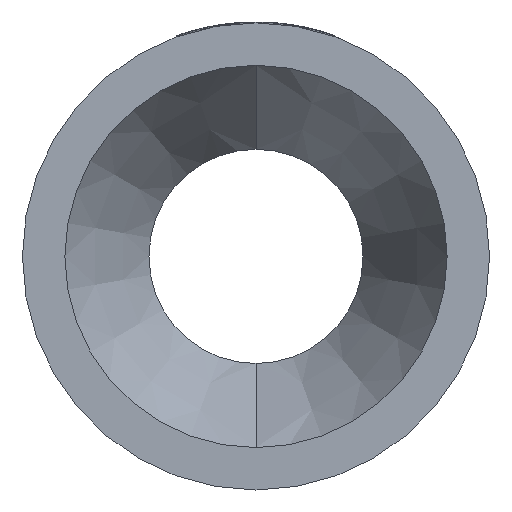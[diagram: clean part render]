
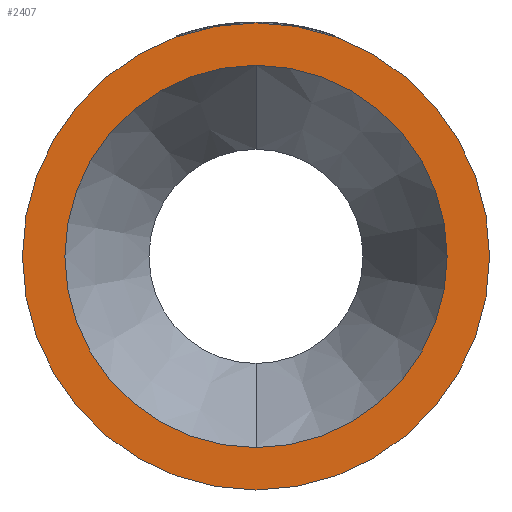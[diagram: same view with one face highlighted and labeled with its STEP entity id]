
A CAD part, left-side view. The second image highlights one B-rep face of the part: STEP entity #2407.
In plain terms, the highlighted planar face has unit normal (-1, 0, 0).
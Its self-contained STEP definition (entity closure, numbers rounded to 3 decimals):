
#219 = AXIS2_PLACEMENT_3D ( 'NONE', #3378, #3377, #3357 ) ;
#252 = AXIS2_PLACEMENT_3D ( 'NONE', #1071, #1068, #1043 ) ;
#323 = VERTEX_POINT ( 'NONE', #3274 ) ;
#616 = FACE_BOUND ( 'NONE', #1716, .T. ) ;
#684 = EDGE_CURVE ( 'NONE', #1900, #323, #3231, .T. ) ;
#720 = DIRECTION ( 'NONE',  ( 0., 0., 1. ) ) ;
#752 = DIRECTION ( 'NONE',  ( -1., 0., 0. ) ) ;
#758 = CARTESIAN_POINT ( 'NONE',  ( 0., 0., 0. ) ) ;
#809 = DIRECTION ( 'NONE',  ( 0., 0., 1. ) ) ;
#817 = DIRECTION ( 'NONE',  ( -1., 0., 0. ) ) ;
#823 = CARTESIAN_POINT ( 'NONE',  ( 0., 0., 0. ) ) ;
#827 = EDGE_CURVE ( 'NONE', #851, #1632, #3075, .T. ) ;
#851 = VERTEX_POINT ( 'NONE', #3320 ) ;
#1043 = DIRECTION ( 'NONE',  ( 0., 0., 1. ) ) ;
#1068 = DIRECTION ( 'NONE',  ( -1., 0., 0. ) ) ;
#1071 = CARTESIAN_POINT ( 'NONE',  ( 0., 0., 0. ) ) ;
#1191 = EDGE_CURVE ( 'NONE', #1632, #851, #1943, .T. ) ;
#1197 = EDGE_CURVE ( 'NONE', #323, #1900, #1884, .T. ) ;
#1533 = AXIS2_PLACEMENT_3D ( 'NONE', #3031, #2445, #3017 ) ;
#1632 = VERTEX_POINT ( 'NONE', #2231 ) ;
#1716 = EDGE_LOOP ( 'NONE', ( #2053, #2094 ) ) ;
#1838 = FACE_OUTER_BOUND ( 'NONE', #2774, .T. ) ;
#1884 = CIRCLE ( 'NONE', #3587, 125. ) ;
#1900 = VERTEX_POINT ( 'NONE', #2380 ) ;
#1943 = CIRCLE ( 'NONE', #3604, 102.3 ) ;
#2053 = ORIENTED_EDGE ( 'NONE', *, *, #1191, .F. ) ;
#2094 = ORIENTED_EDGE ( 'NONE', *, *, #827, .F. ) ;
#2109 = ORIENTED_EDGE ( 'NONE', *, *, #684, .T. ) ;
#2120 = ORIENTED_EDGE ( 'NONE', *, *, #1197, .T. ) ;
#2231 = CARTESIAN_POINT ( 'NONE',  ( 0., 0., 102.3 ) ) ;
#2380 = CARTESIAN_POINT ( 'NONE',  ( 0., 0., 125. ) ) ;
#2407 = ADVANCED_FACE ( 'NONE', ( #616, #1838 ), #3153, .F. ) ;
#2445 = DIRECTION ( 'NONE',  ( 1., 0., 0. ) ) ;
#2774 = EDGE_LOOP ( 'NONE', ( #2109, #2120 ) ) ;
#3017 = DIRECTION ( 'NONE',  ( 0., 0., -1. ) ) ;
#3031 = CARTESIAN_POINT ( 'NONE',  ( 0., 102.3, 0. ) ) ;
#3075 = CIRCLE ( 'NONE', #219, 102.3 ) ;
#3153 = PLANE ( 'NONE',  #1533 ) ;
#3231 = CIRCLE ( 'NONE', #252, 125. ) ;
#3274 = CARTESIAN_POINT ( 'NONE',  ( 0., 0., -125. ) ) ;
#3320 = CARTESIAN_POINT ( 'NONE',  ( 0., 0., -102.3 ) ) ;
#3357 = DIRECTION ( 'NONE',  ( 0., 0., 1. ) ) ;
#3377 = DIRECTION ( 'NONE',  ( -1., 0., 0. ) ) ;
#3378 = CARTESIAN_POINT ( 'NONE',  ( 0., 0., 0. ) ) ;
#3587 = AXIS2_PLACEMENT_3D ( 'NONE', #758, #752, #720 ) ;
#3604 = AXIS2_PLACEMENT_3D ( 'NONE', #823, #817, #809 ) ;
